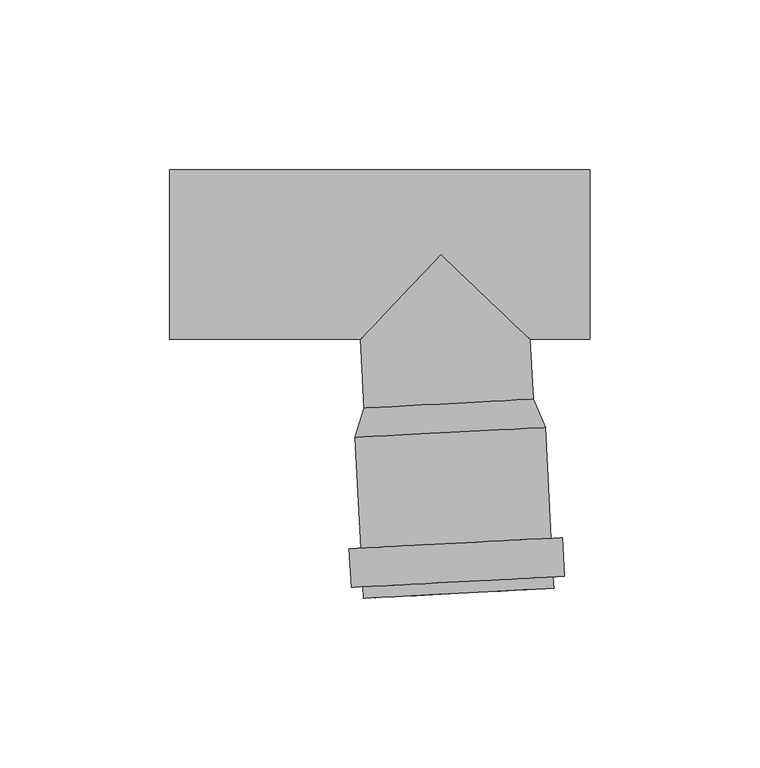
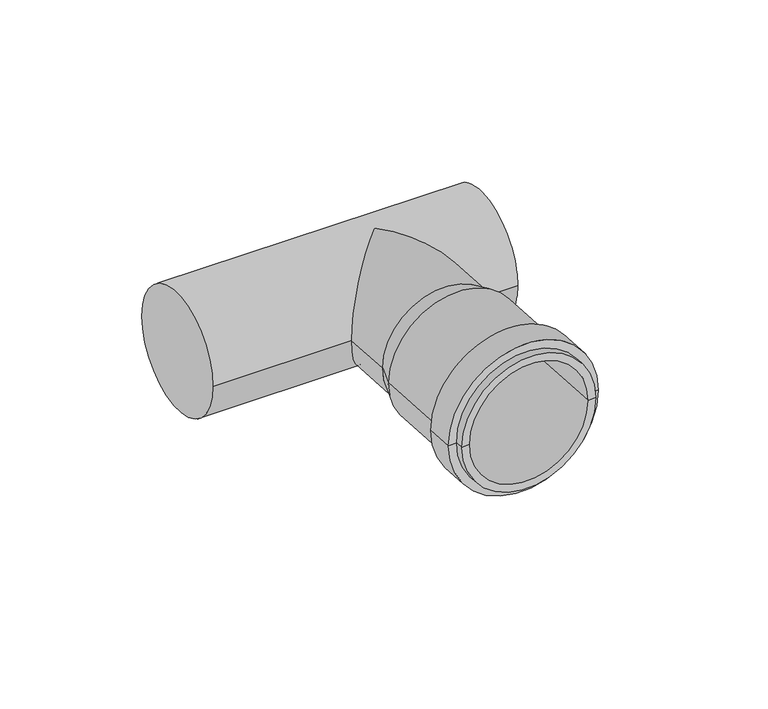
"""IFC4 building model written with IfcOpenShell, lengths in millimetres: pipe fitting geometry, pf_HTEA : pf_HTEA."""

import ifcopenshell
import ifcopenshell.guid

model = None  # the IFC model being written
_history = None  # IfcOwnerHistory: only IFC2X3 demands one
_inside = {}  # id of a spatial element -> (the spatial element, [elements in it])
_under = {}  # id of a project, library or spatial element -> (it, [spatial elements below it])
_declared = {}  # id of a project -> (the project, [libraries it declares])
_typed = {}  # id of a type object -> (the type object, [elements of that type])
_made_of = {}  # id of a material, layer set ... -> (it, [elements and type objects made of it])


def new_model(schema):
    """Start an empty IFC model of exactly this schema.

    Asked for "IFC4X3", IfcOpenShell would pick the latest addendum, in which some entities
    have other attributes; the version numbers below select the first issue.
    IFC2X3 requires an IfcOwnerHistory on every rooted entity: one is made here for all.
    """
    global model, _history
    if schema == "IFC4X3":
        model = ifcopenshell.file(schema_version=(4, 3, 0, 0))
    else:
        model = ifcopenshell.file(schema=schema)
    _inside.clear()
    _under.clear()
    _declared.clear()
    _typed.clear()
    _made_of.clear()
    _history = None
    if model.schema == "IFC2X3":
        org = make("IfcOrganization", Name="unknown")
        user = make(
            "IfcPersonAndOrganization",
            ThePerson=make("IfcPerson", FamilyName="unknown"),
            TheOrganization=org,
        )
        app = make(
            "IfcApplication",
            ApplicationDeveloper=org,
            Version="unknown",
            ApplicationFullName="unknown",
            ApplicationIdentifier="unknown",
        )
        _history = make(
            "IfcOwnerHistory",
            OwningUser=user,
            OwningApplication=app,
            ChangeAction="ADDED",
            CreationDate=0,
        )
    return model


def make(cls, **values):
    """One entity of the class cls with the attributes given. An attribute that is None is left unset."""
    return model.create_entity(
        cls, **{name: value for name, value in values.items() if value is not None}
    )


def rooted(cls, **values):
    """An entity with a GlobalId (a new one), such as an element, a storey or a relation."""
    return make(cls, GlobalId=ifcopenshell.guid.new(), OwnerHistory=_history, **values)


def si_unit(unit_type, name, prefix=None):
    """IfcSIUnit, for example si_unit("LENGTHUNIT", "METRE", prefix="MILLI")."""
    return make("IfcSIUnit", UnitType=unit_type, Prefix=prefix, Name=name)


def assignment(units):
    """IfcUnitAssignment: the units of a project."""
    return None if units is None else make("IfcUnitAssignment", Units=units)


def point(xyz):
    """IfcCartesianPoint."""
    return None if xyz is None else make("IfcCartesianPoint", Coordinates=xyz)


def direction(xyz):
    """IfcDirection."""
    return None if xyz is None else make("IfcDirection", DirectionRatios=xyz)


def frame(location, z_axis=None, x_axis=None):
    """IfcAxis2Placement3D, a coordinate frame: its origin and axes. An axis left out is left unset."""
    return make(
        "IfcAxis2Placement3D",
        Location=point(location),
        Axis=direction(z_axis),
        RefDirection=direction(x_axis),
    )


def origin():
    """The frame at (0, 0, 0) with its axes left unset."""
    return frame((0.0, 0.0, 0.0))


def place(relative_to, where):
    """IfcLocalPlacement: puts the frame where relative to a parent placement (None: the world)."""
    return make(
        "IfcLocalPlacement", PlacementRelTo=relative_to, RelativePlacement=where
    )


def context(
    kind, dimensions, precision=None, world=None, true_north=None, identifier=None
):
    """IfcGeometricRepresentationContext, for example the 3D "Model" context."""
    return make(
        "IfcGeometricRepresentationContext",
        ContextIdentifier=identifier,
        ContextType=kind,
        CoordinateSpaceDimension=dimensions,
        Precision=precision,
        WorldCoordinateSystem=world,
        TrueNorth=true_north,
    )


def project(units=None, contexts=None):
    """IfcProject with its units and contexts."""
    return rooted(
        "IfcProject",
        Name="project",
        RepresentationContexts=contexts,
        UnitsInContext=assignment(units),
    )


def spatial(cls, under=None, at=None, **own):
    """A site, building, storey or space (cls), placed at a placement, below another one or the project."""
    s = rooted(cls, ObjectPlacement=at, **own)
    if under is not None:
        _under.setdefault(under.id(), (under, []))[1].append(s)
    return s


def polyline(points):
    """IfcPolyline through the points."""
    return make("IfcPolyline", Points=[point(p) for p in points])


def circle_curve(where, radius):
    """IfcCircle in the frame where."""
    return make("IfcCircle", Position=where, Radius=radius)


def ellipse_curve(where, semi_axis1, semi_axis2):
    """IfcEllipse in the frame where."""
    return make(
        "IfcEllipse", Position=where, SemiAxis1=semi_axis1, SemiAxis2=semi_axis2
    )


def shape(context_of_items, identifier, shape_type, items):
    """IfcShapeRepresentation: the items that make up one representation, for example the "Body"."""
    return make(
        "IfcShapeRepresentation",
        ContextOfItems=context_of_items,
        RepresentationIdentifier=identifier,
        RepresentationType=shape_type,
        Items=items,
    )


def source(mapping_origin, context_of_items, identifier, shape_type, items):
    """IfcRepresentationMap: a shape defined once, which mapped items show again and again."""
    return make(
        "IfcRepresentationMap",
        MappingOrigin=mapping_origin,
        MappedRepresentation=shape(context_of_items, identifier, shape_type, items),
    )


def transform(
    local_origin,
    x_axis=None,
    y_axis=None,
    z_axis=None,
    scale=None,
    scale2=None,
    scale3=None,
    uniform=True,
):
    """IfcCartesianTransformationOperator3D, or its non-uniform kind. x_axis, y_axis, z_axis: its Axis1, 2, 3."""
    if uniform:
        return make(
            "IfcCartesianTransformationOperator3D",
            Axis1=direction(x_axis),
            Axis2=direction(y_axis),
            LocalOrigin=point(local_origin),
            Scale=scale,
            Axis3=direction(z_axis),
        )
    return make(
        "IfcCartesianTransformationOperator3DnonUniform",
        Axis1=direction(x_axis),
        Axis2=direction(y_axis),
        LocalOrigin=point(local_origin),
        Scale=scale,
        Axis3=direction(z_axis),
        Scale2=scale2,
        Scale3=scale3,
    )


def mapped(mapping_source, mapping_target):
    """IfcMappedItem: shows the shape of a source again, moved by a transform."""
    return make(
        "IfcMappedItem", MappingSource=mapping_source, MappingTarget=mapping_target
    )


def made_of(thing, what):
    """Note that an element or type object is made of a material, layer set ...; save() writes the relation."""
    if what is not None:
        _made_of.setdefault(what.id(), (what, []))[1].append(thing)
    return thing


def element(
    cls,
    number,
    at=None,
    inside=None,
    cuts=None,
    type_object=None,
    material=None,
    context=None,
    identifier="Body",
    shape_type=None,
    held_by="IfcProductDefinitionShape",
    body=None,
    shapes=None,
    **own,
):
    """One element of the class cls, such as IfcWall. Its Tag is "e" and its number.

    at: its placement. inside: the storey or other place that contains it. cuts: it is an
    opening in that element (IfcRelVoidsElement). A single representation is given by context,
    identifier, shape_type and body (its items); several are given by shapes. held_by: the class
    of the entity that holds the representations. save() writes the other relations.
    """
    e = rooted(cls, Tag="e%d" % number, ObjectPlacement=at, **own)
    if body is not None:
        shapes = [shape(context, identifier, shape_type, body)]
    if shapes is not None:
        e.Representation = make(held_by, Representations=shapes)
    if inside is not None:
        _inside.setdefault(inside.id(), (inside, []))[1].append(e)
    if cuts is not None:
        rooted(
            "IfcRelVoidsElement", RelatingBuildingElement=cuts, RelatedOpeningElement=e
        )
    if type_object is not None:
        _typed.setdefault(type_object.id(), (type_object, []))[1].append(e)
    return made_of(e, material)


def aggregate(whole, parts):
    """IfcRelAggregates: a whole, such as a stair, and the parts it consists of."""
    return rooted("IfcRelAggregates", RelatingObject=whole, RelatedObjects=parts)


def save(model, path):
    """Write the relations noted so far, then the file.

    IfcRelAggregates (storeys below a building ...), IfcRelContainedInSpatialStructure (elements
    in a storey), IfcRelDefinesByType, IfcRelAssociatesMaterial and IfcRelDeclares: one each for
    every whole, place, type object, material and project.
    """
    for whole, parts in _under.values():
        aggregate(whole, parts)
    for where, things in _inside.values():
        rooted(
            "IfcRelContainedInSpatialStructure",
            RelatedElements=things,
            RelatingStructure=where,
        )
    for kind, things in _typed.values():
        rooted("IfcRelDefinesByType", RelatedObjects=things, RelatingType=kind)
    for what, things in _made_of.values():
        rooted("IfcRelAssociatesMaterial", RelatedObjects=things, RelatingMaterial=what)
    for by, libraries in _declared.values():
        rooted("IfcRelDeclares", RelatingContext=by, RelatedDefinitions=libraries)
    model.write(path)


def plane_surface(at):
    """IfcPlane: the flat surface through the origin of the frame at, square to its z axis."""
    return make("IfcPlane", Position=at)


def cylinder_surface(at, radius):
    """IfcCylindricalSurface: all points at the distance radius from the z axis of the frame at."""
    return make("IfcCylindricalSurface", Position=at, Radius=radius)


def revolved_surface(curve, axis_point, axis_direction):
    """IfcSurfaceOfRevolution: the curve turned about the line through axis_point along axis_direction."""
    return make(
        "IfcSurfaceOfRevolution",
        SweptCurve=make("IfcArbitraryOpenProfileDef", ProfileType="CURVE", Curve=curve),
        AxisPosition=make("IfcAxis1Placement", Location=point(axis_point), Axis=direction(axis_direction)),
    )


def advanced_brep(points, edges, surfaces, faces):
    """IfcAdvancedBrep: a solid bounded by faces that lie on surfaces and meet in shared edges.

    An edge is (start, end): straight between two places in points (the first is 0);
    or (start, end, curve); or (start, end, curve, False) where it runs against its curve.
    A face is (place in surfaces, loops), or (place, loops, False) where it looks against
    its surface's normal. A loop lists edges by number (the first is 1), with a minus sign
    where the edge is run from its end to its start. The first loop is the outer one.
    """
    corners = [point(p) for p in points]
    vertices = [make("IfcVertexPoint", VertexGeometry=c) for c in corners]
    made = []
    for start, end, *more in edges:
        made.append(
            make(
                "IfcEdgeCurve",
                EdgeStart=vertices[start],
                EdgeEnd=vertices[end],
                EdgeGeometry=more[0] if more else make("IfcPolyline", Points=[corners[start], corners[end]]),
                SameSense=more[1] if len(more) > 1 else True,
            )
        )
    hull = []
    for where, loops, *sense in faces:
        bounds = []
        for j, loop in enumerate(loops):
            ring = [make("IfcOrientedEdge", EdgeElement=made[abs(k) - 1], Orientation=k > 0) for k in loop]
            bounds.append(
                make(
                    "IfcFaceOuterBound" if j == 0 else "IfcFaceBound",
                    Bound=make("IfcEdgeLoop", EdgeList=ring),
                    Orientation=True,
                )
            )
        hull.append(make("IfcAdvancedFace", Bounds=bounds, FaceSurface=surfaces[where], SameSense=sense[0] if sense else True))
    return make("IfcAdvancedBrep", Outer=make("IfcClosedShell", CfsFaces=hull))


def pipe_fitting_ac615eb9(model_context):
    return source(origin(), model_context, "Body", "AdvancedBrep", [
        advanced_brep(
        [(-22.6629563, -45.2480984, 0.0), (27.2685204, -42.6313006, 0.0), (30.8091276, -50.9574102, 0.0), (-25.3138522, -53.8986909, 0.0), (2.3027821, -43.9396995, 0.0), (-22.8278943, -101.3335938, 0.0), (33.2950856, -98.3923131, 0.0), (30.199334, -98.5545546, 0.0), (-19.7321427, -101.1713524, 0.0), (-23.0058366, -97.9382534, 0.0), (33.1171433, -94.9969727, 0.0), (-26.401177, -98.1161957, 0.0), (36.5124837, -94.8190304, 0.0), (-26.9978069, -86.731819, 0.0), (35.9158538, -83.4346537, 0.0), (-23.6024665, -86.5538767, 0.0), (32.5205134, -83.612596, 0.0), (-22.2181007, -53.7364495, 0.0), (27.7133761, -51.1196517, 0.0), (2.7476377, -52.4280506, 0.0)],
        [
            (0, 1, circle_curve(frame((2.3027821, -43.9396995, 0.0), z_axis=(0.0523359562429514, -0.9986295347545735, 0.0), x_axis=(0.9986295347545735, 0.0523359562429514, 0.0)), 25.0)),
            (1, 2),
            (2, 3, circle_curve(frame((2.7476377, -52.4280506, 0.0), z_axis=(-0.0523359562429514, 0.9986295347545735, 0.0), x_axis=(0.9986295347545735, 0.0523359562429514, 0.0)), 28.1)),
            (3, 0),
            (1, 0, circle_curve(frame((2.3027821, -43.9396995, 0.0), z_axis=(0.0523359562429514, -0.9986295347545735, 0.0), x_axis=(0.9986295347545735, 0.0523359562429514, 0.0)), 25.0)),
            (3, 2, circle_curve(frame((2.7476377, -52.4280506, 0.0), z_axis=(-0.0523359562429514, 0.9986295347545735, 0.0), x_axis=(0.9986295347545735, 0.0523359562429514, 0.0)), 28.1)),
            (4, 1),
            (0, 4),
            (5, 6, circle_curve(frame((5.2335956, -99.8629535, 0.0), z_axis=(0.0523359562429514, -0.9986295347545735, 0.0), x_axis=(0.9986295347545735, 0.0523359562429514, 0.0)), 28.1)),
            (6, 7),
            (7, 8, circle_curve(frame((5.2335956, -99.8629535, 0.0), z_axis=(-0.0523359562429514, 0.9986295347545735, 0.0), x_axis=(0.9986295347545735, 0.0523359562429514, 0.0)), 25.0)),
            (8, 5),
            (6, 5, circle_curve(frame((5.2335956, -99.8629535, 0.0), z_axis=(0.0523359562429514, -0.9986295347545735, 0.0), x_axis=(0.9986295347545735, 0.0523359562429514, 0.0)), 28.1)),
            (8, 7, circle_curve(frame((5.2335956, -99.8629535, 0.0), z_axis=(-0.0523359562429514, 0.9986295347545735, 0.0), x_axis=(0.9986295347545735, 0.0523359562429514, 0.0)), 25.0)),
            (9, 10, circle_curve(frame((5.0556534, -96.4676131, 0.0), z_axis=(0.0523359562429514, -0.9986295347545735, 0.0), x_axis=(0.9986295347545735, 0.0523359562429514, 0.0)), 28.1)),
            (10, 6),
            (5, 9),
            (10, 9, circle_curve(frame((5.0556534, -96.4676131, 0.0), z_axis=(0.0523359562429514, -0.9986295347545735, 0.0), x_axis=(0.9986295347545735, 0.0523359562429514, 0.0)), 28.1)),
            (11, 12, circle_curve(frame((5.0556534, -96.4676131, 0.0), z_axis=(0.0523359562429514, -0.9986295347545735, 0.0), x_axis=(0.9986295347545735, 0.0523359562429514, 0.0)), 31.5)),
            (12, 10),
            (9, 11),
            (12, 11, circle_curve(frame((5.0556534, -96.4676131, 0.0), z_axis=(0.0523359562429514, -0.9986295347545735, 0.0), x_axis=(0.9986295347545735, 0.0523359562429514, 0.0)), 31.5)),
            (13, 14, circle_curve(frame((4.4590235, -85.0832364, 0.0), z_axis=(0.0523359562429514, -0.9986295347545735, 0.0), x_axis=(0.9986295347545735, 0.0523359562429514, 0.0)), 31.5)),
            (14, 12),
            (11, 13),
            (14, 13, circle_curve(frame((4.4590235, -85.0832364, 0.0), z_axis=(0.0523359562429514, -0.9986295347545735, 0.0), x_axis=(0.9986295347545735, 0.0523359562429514, 0.0)), 31.5)),
            (15, 16, circle_curve(frame((4.4590235, -85.0832364, 0.0), z_axis=(0.0523359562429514, -0.9986295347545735, 0.0), x_axis=(0.9986295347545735, 0.0523359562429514, 0.0)), 28.1)),
            (16, 14),
            (13, 15),
            (16, 15, circle_curve(frame((4.4590235, -85.0832364, 0.0), z_axis=(0.0523359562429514, -0.9986295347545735, 0.0), x_axis=(0.9986295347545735, 0.0523359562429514, 0.0)), 28.1)),
            (2, 16),
            (15, 3),
            (17, 18, circle_curve(frame((2.7476377, -52.4280506, 0.0), z_axis=(0.0523359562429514, -0.9986295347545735, 0.0), x_axis=(0.9986295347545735, 0.0523359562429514, 0.0)), 25.0)),
            (18, 19),
            (19, 17),
            (18, 17, circle_curve(frame((2.7476377, -52.4280506, 0.0), z_axis=(0.0523359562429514, -0.9986295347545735, 0.0), x_axis=(0.9986295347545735, 0.0523359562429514, 0.0)), 25.0)),
            (7, 18),
            (17, 8),
        ],
        [
            revolved_surface(polyline([(30.8091276, -50.9574102, 0.0), (27.2685204, -42.6313006, 0.0)]), (2.3027821, -43.9396995, 0.0), (-0.0523359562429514, 0.9986295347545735, 0.0)),
            plane_surface(frame((2.3027821, -43.9396995, 0.0), z_axis=(-0.0523359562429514, 0.9986295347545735, 0.0), x_axis=(0.9986295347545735, 0.0523359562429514, 0.0))),
            plane_surface(frame((5.2335956, -99.8629535, 0.0), z_axis=(0.0523359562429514, -0.9986295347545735, 0.0), x_axis=(0.9986295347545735, 0.0523359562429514, 0.0))),
            cylinder_surface(frame((2.3027821, -43.9396995, 0.0), z_axis=(-0.0523359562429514, 0.9986295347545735, 0.0), x_axis=(0.9986295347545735, 0.0523359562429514, 0.0)), 28.1),
            plane_surface(frame((5.0556534, -96.4676131, 0.0), z_axis=(0.0523359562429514, -0.9986295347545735, 0.0), x_axis=(0.9986295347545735, 0.0523359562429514, 0.0))),
            cylinder_surface(frame((2.3027821, -43.9396995, 0.0), z_axis=(-0.0523359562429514, 0.9986295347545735, 0.0), x_axis=(0.9986295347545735, 0.0523359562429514, 0.0)), 31.5),
            plane_surface(frame((4.4590235, -85.0832364, 0.0), z_axis=(-0.0523359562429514, 0.9986295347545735, 0.0), x_axis=(0.9986295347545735, 0.0523359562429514, 0.0))),
            plane_surface(frame((2.7476377, -52.4280506, 0.0), z_axis=(0.0523359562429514, -0.9986295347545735, 0.0), x_axis=(0.9986295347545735, 0.0523359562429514, 0.0))),
            revolved_surface(polyline([(27.71337609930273, -51.119651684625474, 0.0), (30.19933402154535, -98.55455459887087, 0.0)]), (2.3027821, -43.9396995, 0.0), (-0.0523359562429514, 0.9986295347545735, 0.0)),
        ],
        [
            (0, [[1, 2, 3, 4]]),
            (0, [[5, -4, 6, -2]]),
            (1, [[7, -1, 8]]),
            (1, [[-8, -5, -7]]),
            (2, [[9, 10, 11, 12]]),
            (2, [[13, -12, 14, -10]]),
            (3, [[15, 16, -9, 17]]),
            (3, [[18, -17, -13, -16]]),
            (4, [[19, 20, -15, 21]]),
            (4, [[22, -21, -18, -20]]),
            (5, [[23, 24, -19, 25]]),
            (5, [[26, -25, -22, -24]]),
            (6, [[27, 28, -23, 29]]),
            (6, [[30, -29, -26, -28]]),
            (3, [[-3, 31, -27, 32]]),
            (3, [[-6, -32, -30, -31]]),
            (7, [[33, 34, 35]]),
            (7, [[36, -35, -34]]),
            (8, [[-11, 37, -33, 38]]),
            (8, [[-14, -38, -36, -37]]),
        ],
    ),
        advanced_brep(
        [(-22.6629563, -45.2480984, 0.0), (27.2685204, -42.6313006, 0.0), (-80.0, -25.0, 0.0), (-80.0, 25.0, 0.0), (44.0, -25.0, 0.0), (44.0, 25.0, 0.0), (-23.7241142, -25.0, 0.0), (0.0, 0.0, 25.0), (26.3445031, -25.0, 0.0), (0.0, 0.0, -25.0)],
        [
            (0, 1, circle_curve(frame((2.3027821, -43.9396995, 0.0), z_axis=(0.05233595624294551, -0.9986295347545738, 0.0), x_axis=(0.9986295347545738, 0.05233595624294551, 0.0)), 25.0)),
            (1, 0, circle_curve(frame((2.3027821, -43.9396995, 0.0), z_axis=(0.05233595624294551, -0.9986295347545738, 0.0), x_axis=(0.9986295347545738, 0.05233595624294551, 0.0)), 25.0)),
            (2, 3, circle_curve(frame((-80.0, 0.0, 0.0), z_axis=(-1.0, 0.0, 0.0), x_axis=(0.0, 1.0, 0.0)), 25.0)),
            (3, 2, circle_curve(frame((-80.0, 0.0, 0.0), z_axis=(-1.0, 0.0, 0.0), x_axis=(0.0, 1.0, 0.0)), 25.0)),
            (4, 5, circle_curve(frame((44.0, 0.0, 0.0), z_axis=(1.0, 0.0, 0.0), x_axis=(0.0, 1.0, 0.0)), 25.0)),
            (5, 4, circle_curve(frame((44.0, 0.0, 0.0), z_axis=(1.0, 0.0, 0.0), x_axis=(0.0, 1.0, 0.0)), 25.0)),
            (2, 6),
            (6, 7, ellipse_curve(frame((0.0, 0.0, 0.0), z_axis=(-0.7253743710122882, 0.6883545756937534, 0.0), x_axis=(-0.6883545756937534, -0.7253743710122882, 0.0)), 34.4649618, 25.0)),
            (7, 8, ellipse_curve(frame((0.0, 0.0, 0.0), z_axis=(0.6883545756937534, 0.7253743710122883, 0.0), x_axis=(-0.7253743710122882, 0.6883545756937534, 0.0)), 36.3184918, 25.0)),
            (8, 4),
            (5, 3),
            (8, 9, ellipse_curve(frame((0.0, 0.0, 0.0), z_axis=(0.6883545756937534, 0.7253743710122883, 0.0), x_axis=(-0.7253743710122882, 0.6883545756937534, 0.0)), 36.3184918, 25.0)),
            (9, 6, ellipse_curve(frame((0.0, 0.0, 0.0), z_axis=(-0.7253743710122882, 0.6883545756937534, 0.0), x_axis=(-0.6883545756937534, -0.7253743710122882, 0.0)), 34.4649618, 25.0)),
            (1, 8),
            (6, 0),
        ],
        [
            plane_surface(frame((2.3027821, -43.9396995, 0.0), z_axis=(0.05233595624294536, -0.9986295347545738, 0.0), x_axis=(0.0, 0.0, 1.0))),
            plane_surface(frame((-80.0, 0.0, 0.0), z_axis=(-1.0, 0.0, 0.0), x_axis=(0.0, 0.0, 1.0))),
            plane_surface(frame((44.0, 0.0, 0.0), z_axis=(1.0, 0.0, 0.0), x_axis=(0.0, 0.0, 1.0))),
            cylinder_surface(frame((-80.0, 0.0, 0.0), z_axis=(-1.0, 0.0, 0.0), x_axis=(0.0, 1.0, 0.0)), 25.0),
            cylinder_surface(frame((0.0, 0.0, 0.0), z_axis=(-0.05233595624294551, 0.9986295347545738, 0.0), x_axis=(0.9986295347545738, 0.05233595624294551, 0.0)), 25.0),
        ],
        [
            (0, [[1, 2]]),
            (1, [[3, 4]]),
            (2, [[5, 6]]),
            (3, [[-3, 7, 8, 9, 10, -6, 11]]),
            (3, [[-4, -11, -5, -10, 12, 13, -7]]),
            (4, [[-2, 14, -9, -8, 15]]),
            (4, [[-1, -15, -13, -12, -14]]),
        ],
    ),
    ])


if __name__ == "__main__":
    model = new_model("IFC4")
    model_context = context("Model", 3, world=origin())
    ifc_project = project(units=[si_unit("LENGTHUNIT", "METRE", prefix="MILLI")], contexts=[model_context])
    site = spatial("IfcSite", under=ifc_project)
    building = spatial("IfcBuilding", under=site)
    placement = place(None, origin())
    pipe_fitting_shape = pipe_fitting_ac615eb9(model_context)
    element("IfcPipeFitting", 1, ObjectType="pf_HTEA : pf_HTEA", at=placement, inside=building, context=model_context, shape_type="MappedRepresentation", body=[
        mapped(pipe_fitting_shape, transform((0.0, 0.0, 0.0), x_axis=(1.0, 0.0, 0.0), y_axis=(0.0, 1.0, 0.0), z_axis=(0.0, 0.0, 1.0))),
    ])
    save(model, "model.ifc")
